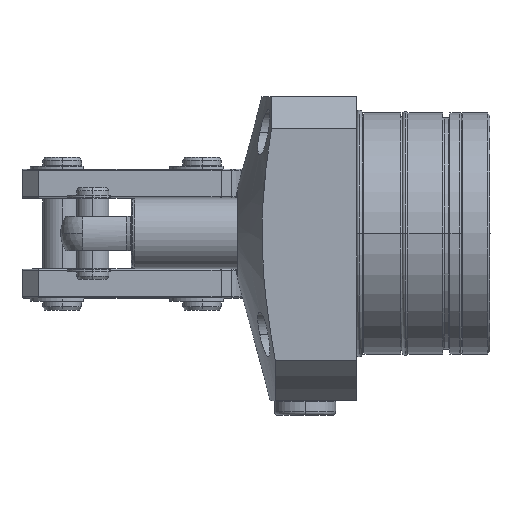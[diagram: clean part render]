
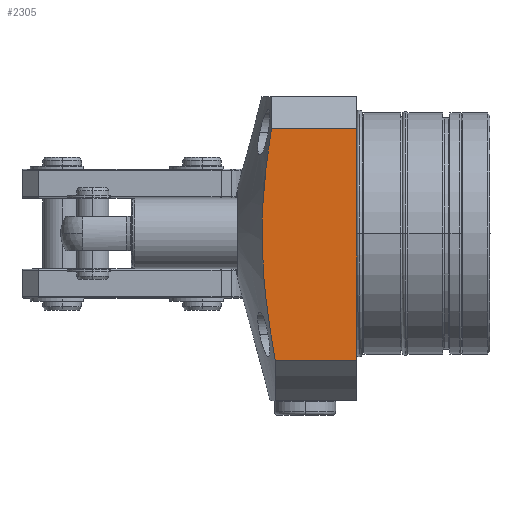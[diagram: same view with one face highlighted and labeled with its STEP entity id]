
A CAD part, top view. The second image highlights one B-rep face of the part: STEP entity #2305.
In plain terms, the highlighted planar face has unit normal (0, 0, 1).
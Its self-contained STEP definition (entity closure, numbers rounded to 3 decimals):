
#1523=B_SPLINE_CURVE_WITH_KNOTS('',3,(#13371,#13372,#13373,#13374,#13375,
#13376),.UNSPECIFIED.,.F.,.F.,(4,2,4),(0.,0.5,1.),.UNSPECIFIED.);
#1958=PLANE('',#8816);
#2305=ADVANCED_FACE('',(#2869),#1958,.F.);
#2869=FACE_OUTER_BOUND('',#3310,.T.);
#3310=EDGE_LOOP('',(#5557,#5558,#5559,#5560));
#3747=LINE('',#13547,#4100);
#3749=LINE('',#13556,#4102);
#3757=LINE('',#13578,#4110);
#4100=VECTOR('',#10729,1.);
#4102=VECTOR('',#10741,1.);
#4110=VECTOR('',#10769,1.);
#5557=ORIENTED_EDGE('',*,*,#7404,.T.);
#5558=ORIENTED_EDGE('',*,*,#7418,.T.);
#5559=ORIENTED_EDGE('',*,*,#7424,.T.);
#5560=ORIENTED_EDGE('',*,*,#7437,.F.);
#6568=VERTEX_POINT('',#13370);
#6569=VERTEX_POINT('',#13377);
#6579=VERTEX_POINT('',#13548);
#6581=VERTEX_POINT('',#13557);
#7404=EDGE_CURVE('',#6569,#6568,#1523,.T.);
#7418=EDGE_CURVE('',#6568,#6579,#3747,.T.);
#7424=EDGE_CURVE('',#6579,#6581,#3749,.T.);
#7437=EDGE_CURVE('',#6569,#6581,#3757,.T.);
#8816=AXIS2_PLACEMENT_3D('',#13580,#10772,#10773);
#10729=DIRECTION('',(1.,0.,0.));
#10741=DIRECTION('',(0.,1.,0.));
#10769=DIRECTION('',(1.,0.,0.));
#10772=DIRECTION('',(0.,0.,-1.));
#10773=DIRECTION('',(-1.,0.,0.));
#13370=CARTESIAN_POINT('',(-25.237,-39.468,42.5));
#13371=CARTESIAN_POINT('',(-26.442,32.5,42.5));
#13372=CARTESIAN_POINT('',(-28.387,20.546,42.5));
#13373=CARTESIAN_POINT('',(-29.612,8.574,42.5));
#13374=CARTESIAN_POINT('',(-29.093,-15.451,42.5));
#13375=CARTESIAN_POINT('',(-27.414,-27.528,42.5));
#13376=CARTESIAN_POINT('',(-25.237,-39.468,42.5));
#13377=CARTESIAN_POINT('',(-26.442,32.5,42.5));
#13547=CARTESIAN_POINT('',(-61.,-39.468,42.5));
#13548=CARTESIAN_POINT('',(0.,-39.468,42.5));
#13556=CARTESIAN_POINT('',(0.,32.5,42.5));
#13557=CARTESIAN_POINT('',(0.,32.5,42.5));
#13578=CARTESIAN_POINT('',(-61.,32.5,42.5));
#13580=CARTESIAN_POINT('',(-61.,32.5,42.5));
